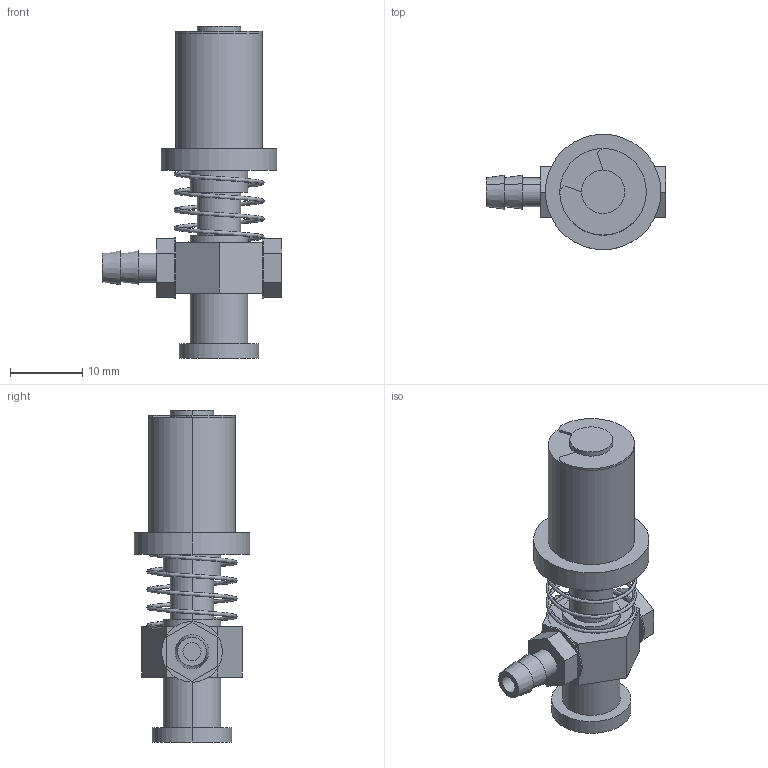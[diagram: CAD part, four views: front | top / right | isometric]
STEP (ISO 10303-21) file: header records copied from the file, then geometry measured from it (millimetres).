
FILE_DESCRIPTION (( 'STEP AP214' ), '1' );
FILE_NAME ('VFM-0512.STEP', '2023-03-06T05:29:23', ( 'Windows User' ), ( 'P R C' ), 'SwSTEP 2.0', 'SolidWorks 2019', '' );
FILE_SCHEMA (( 'AUTOMOTIVE_DESIGN' ));
Length unit declared in the file: millimetre
Products named in the file (1): VFM-0512
Bounding box: 24.9 x 16 x 46 mm (x, y, z)
Surface area: 4522.2 mm2 (no closed solid volume)
Topology: 0 solids, 10 shells, 141 faces, 331 edges, 219 vertices
Faces by surface type: cylinder 72, plane 56, bspline 7, cone 6
Entity records: 8648 total; most frequent: CARTESIAN_POINT 3846, ORIENTED_EDGE 656, DIRECTION 625, EDGE_CURVE 329, AXIS2_PLACEMENT_3D 237, VERTEX_POINT 219, EDGE_LOOP 165, UNCERTAINTY_MEASURE_WITH_UNIT 152
